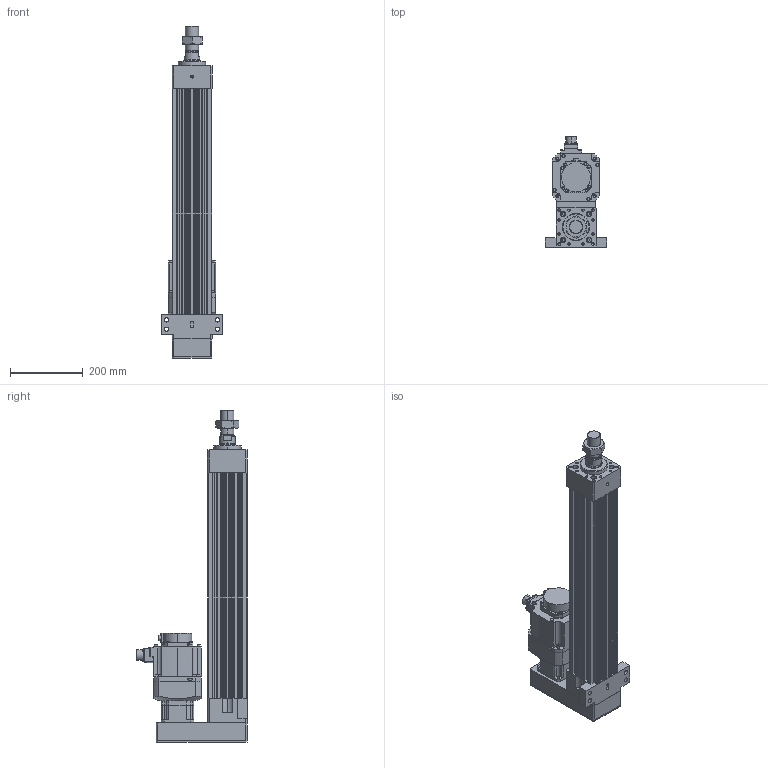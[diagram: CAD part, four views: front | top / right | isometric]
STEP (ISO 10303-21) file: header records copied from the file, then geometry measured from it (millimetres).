
FILE_DESCRIPTION (( 'STEP AP203' ), '1' );
FILE_NAME ('HES110NS(HS)-P450-W010G00-M-FFC.STEP', '2023-01-26T10:16:44', ( 'tms' ), ( '' ), 'SwSTEP 2.0', 'SolidWorks 2013', '' );
FILE_SCHEMA (( 'CONFIG_CONTROL_DESIGN' ));
Length unit declared in the file: millimetre
Products named in the file (8): P0401301004; HG-SR102; HES110 ROD M ST450; AB090-003[HG-SR102B]; HES110NS(HS)-P450-W010G00-M-FFC; AB0901; HES110-P450-G090-FFC; M36X1.5P
Assembly tree (7 placements, depth 3):
  HES110NS(HS)-P450-W010G00-M-FFC
    HES110-P450-G090-FFC
    HES110 ROD M ST450
    M36X1.5P
    AB090-003[HG-SR102B]
      AB0901
      P0401301004
    HG-SR102
Bounding box: 170 x 304.99 x 913 mm (x, y, z)
Volume: 8340917.3 mm3; surface area: 1076970.8 mm2
Topology: 4 solids, 11 shells, 1111 faces, 2835 edges, 1826 vertices
Faces by surface type: cylinder 519, plane 486, cone 94, bspline 8, torus 4
Entity records: 35472 total; most frequent: CARTESIAN_POINT 6938, DIRECTION 6110, ORIENTED_EDGE 5574, EDGE_CURVE 2797, AXIS2_PLACEMENT_3D 2269, VERTEX_POINT 1826, VECTOR 1572, LINE 1572
